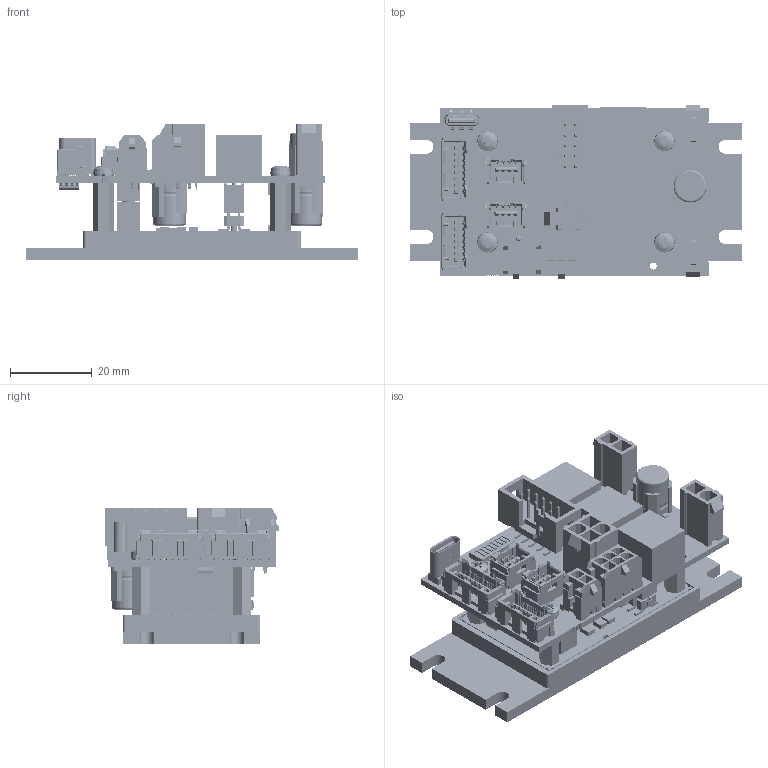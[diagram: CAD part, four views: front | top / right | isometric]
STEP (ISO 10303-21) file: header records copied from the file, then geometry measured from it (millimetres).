
FILE_DESCRIPTION((''),'2;1');
FILE_NAME('854801_ESCON2_COMPACT','2025-05-28T11:24:22',('mmagvisi'),(''),'CREO PARAMETRIC BY PTC INC, 2023092','CREO PARAMETRIC BY PTC INC, 2023092','');
FILE_SCHEMA(('CONFIG_CONTROL_DESIGN','SHAPE_APPEARANCE_LAYERS_GROUPS'));
Products named in the file (1): 854801_ESCON2_COMPACT
Bounding box: 81 x 42.7 x 33.37 mm (x, y, z)
Volume: 30798.2 mm3; surface area: 37684.6 mm2
Topology: 2 solids, 2 shells, 11362 faces, 33475 edges, 21895 vertices
Faces by surface type: plane 8846, cylinder 2280, sphere 84, torus 78, cone 44, extrusion 24, bspline 6
Entity records: 480846 total; most frequent: CARTESIAN_POINT 75900, ORIENTED_EDGE 66814, DIRECTION 58524, PRESENTATION_STYLE_ASSIGNMENT 33409, STYLED_ITEM 33409, CURVE_STYLE 33407, EDGE_CURVE 33407, VECTOR 27720
